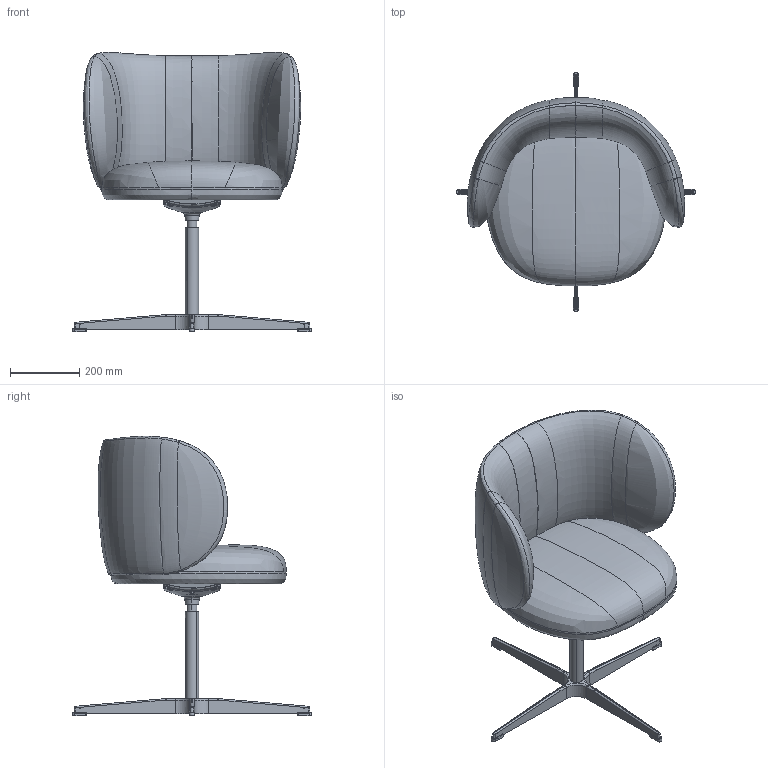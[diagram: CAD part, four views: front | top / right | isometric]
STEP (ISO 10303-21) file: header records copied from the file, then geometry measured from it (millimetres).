
FILE_DESCRIPTION(/* description */ (''),/* implementation_level */ '2;1');
FILE_NAME(/* name */ 'Rico dining swivel_3D',/* time_stamp */ '2023-04-13T14:19:07+02:00',/* author */ (''),/* organization */ (''),/* preprocessor_version */ 'ST-DEVELOPER v16.5',/* originating_system */ 'Rhino 7.28',/* authorisation */ '');
FILE_SCHEMA (('CONFIG_CONTROL_DESIGN'));
Length unit declared in the file: millimetre
Products named in the file (2): Document; Block 01
Assembly tree (1 placements, depth 2):
  Document
    Block 01
Bounding box: 689.99 x 689.99 x 806.03 mm (x, y, z)
Volume: 21563880.2 mm3; surface area: 2207961 mm2
Topology: 15 solids, 19 shells, 1048 faces, 2529 edges, 1492 vertices
Faces by surface type: bspline 505, cylinder 293, plane 250
Entity records: 116171 total; most frequent: CARTESIAN_POINT 100385, ORIENTED_EDGE 4962, EDGE_CURVE 2502, B_SPLINE_CURVE_WITH_KNOTS 1631, VERTEX_POINT 1492, EDGE_LOOP 1115, ADVANCED_FACE 1048, FACE_OUTER_BOUND 1048
